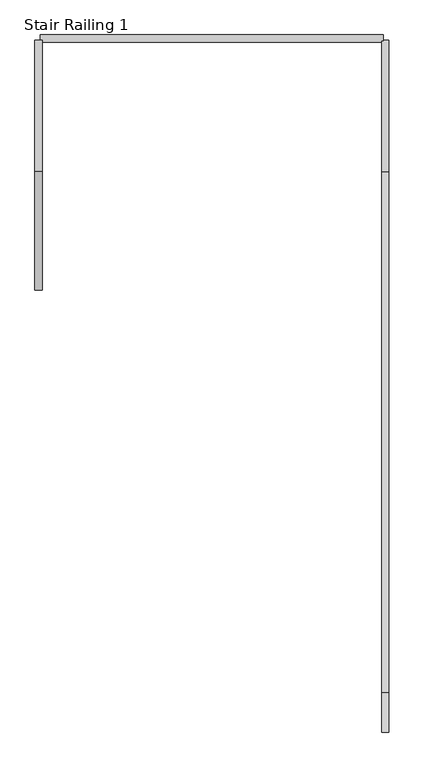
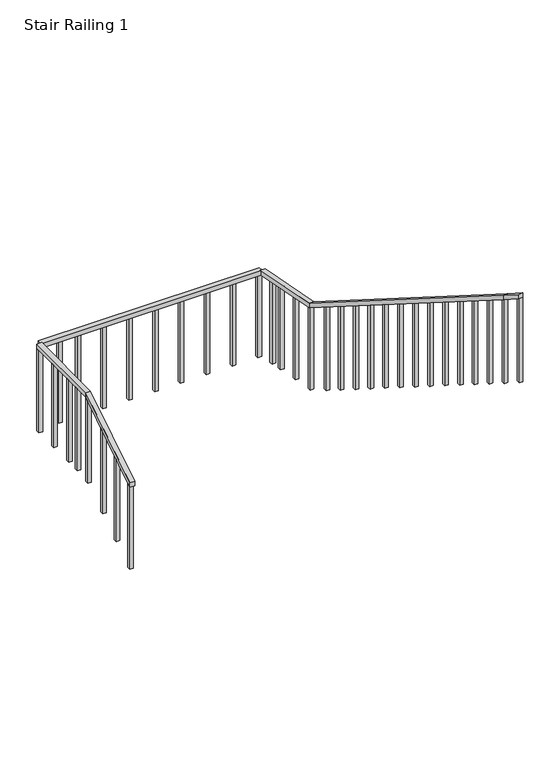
"""IFC4 building model written with IfcOpenShell, lengths in millimetres: railing geometry, Stair Railing 1."""

from ifc_helpers import new_model, si_unit, frame, origin, place, context, project, spatial, polyline, outline, extrude, source, transform, mapped, element, save


def stair_railing_1_f4059a6a(model_context):
    return source(origin(), model_context, "Body", "SweptSolid", [
        extrude(outline(polyline([(55823.086508, 1696.4526316), (55823.086508, 1645.6526316), (54998.086508, 1116.2631579), (54998.086508, 1167.0631579), (55823.086508, 1696.4526316)])), frame((-6353.0838845, 0.0, 0.0), z_axis=(1.0, 0.0, 0.0), x_axis=(0.0, 1.0, 0.0)), (0.0, 0.0, 1.0), 50.8),
        extrude(outline(polyline([(55036.186508, 1140.7113263), (55036.186508, 176.4631579), (54998.086508, 176.4631579), (54998.086508, 1116.2631579), (55036.186508, 1140.7113263)])), frame((-6353.0838845, 0.0, 0.0), z_axis=(1.0, 0.0, 0.0), x_axis=(0.0, 1.0, 0.0)), (0.0, 0.0, 1.0), 38.1),
        extrude(outline(polyline([(55289.936508, 1303.5386947), (55289.936508, 339.2905263), (55251.836508, 339.2905263), (55251.836508, 1279.0905263), (55289.936508, 1303.5386947)])), frame((-6353.0838845, 0.0, 0.0), z_axis=(1.0, 0.0, 0.0), x_axis=(0.0, 1.0, 0.0)), (0.0, 0.0, 1.0), 38.1),
        extrude(outline(polyline([(55543.686508, 1466.3660632), (55543.686508, 502.1178947), (55505.586508, 502.1178947), (55505.586508, 1441.9178947), (55543.686508, 1466.3660632)])), frame((-6353.0838845, 0.0, 0.0), z_axis=(1.0, 0.0, 0.0), x_axis=(0.0, 1.0, 0.0)), (0.0, 0.0, 1.0), 38.1),
        extrude(outline(polyline([(55823.086508, 1645.6526316), (55823.086508, 681.4044632), (55784.986508, 681.4044632), (55784.986508, 1621.2044632), (55823.086508, 1645.6526316)])), frame((-6353.0838845, 0.0, 0.0), z_axis=(1.0, 0.0, 0.0), x_axis=(0.0, 1.0, 0.0)), (0.0, 0.0, 1.0), 38.1),
        extrude(outline(polyline([(-6353.0838845, 56737.486508), (-6302.2838845, 56737.486508), (-6302.2838845, 55823.086508), (-6353.0838845, 55823.086508), (-6353.0838845, 56737.486508)])), frame((0.0, 0.0, 1645.6526316), z_axis=(0.0, 0.0, 1.0), x_axis=(1.0, 0.0, 0.0)), (0.0, 0.0, 1.0), 50.8),
        extrude(outline(polyline([(-6314.9838845, 55981.836508), (-6353.0838845, 55981.836508), (-6353.0838845, 56019.936508), (-6314.9838845, 56019.936508), (-6314.9838845, 55981.836508)])), frame((0.0, 0.0, 705.8526316), z_axis=(0.0, 0.0, 1.0), x_axis=(1.0, 0.0, 0.0)), (0.0, 0.0, 1.0), 939.8),
        extrude(outline(polyline([(-6314.9838845, 56140.586508), (-6353.0838845, 56140.586508), (-6353.0838845, 56178.686508), (-6314.9838845, 56178.686508), (-6314.9838845, 56140.586508)])), frame((0.0, 0.0, 705.8526316), z_axis=(0.0, 0.0, 1.0), x_axis=(1.0, 0.0, 0.0)), (0.0, 0.0, 1.0), 939.8),
        extrude(outline(polyline([(-6314.9838845, 56419.986508), (-6353.0838845, 56419.986508), (-6353.0838845, 56458.086508), (-6314.9838845, 56458.086508), (-6314.9838845, 56419.986508)])), frame((0.0, 0.0, 705.8526316), z_axis=(0.0, 0.0, 1.0), x_axis=(1.0, 0.0, 0.0)), (0.0, 0.0, 1.0), 939.8),
        extrude(outline(polyline([(-6314.9838845, 56699.386508), (-6353.0838845, 56699.386508), (-6353.0838845, 56737.486508), (-6314.9838845, 56737.486508), (-6314.9838845, 56699.386508)])), frame((0.0, 0.0, 705.8526316), z_axis=(0.0, 0.0, 1.0), x_axis=(1.0, 0.0, 0.0)), (0.0, 0.0, 1.0), 939.8),
        extrude(outline(polyline([(-3925.3747339, 56775.586508), (-3925.3747339, 56724.786508), (-6314.9838845, 56724.786508), (-6314.9838845, 56775.586508), (-3925.3747339, 56775.586508)])), frame((0.0, 0.0, 1645.6526316), z_axis=(0.0, 0.0, 1.0), x_axis=(1.0, 0.0, 0.0)), (0.0, 0.0, 1.0), 50.8),
        extrude(outline(polyline([(-6117.1293092, 56737.486508), (-6117.1293092, 56775.586508), (-6079.0293092, 56775.586508), (-6079.0293092, 56737.486508), (-6117.1293092, 56737.486508)])), frame((0.0, 0.0, 705.8526316), z_axis=(0.0, 0.0, 1.0), x_axis=(1.0, 0.0, 0.0)), (0.0, 0.0, 1.0), 939.8),
        extrude(outline(polyline([(-5919.2747339, 56737.486508), (-5919.2747339, 56775.586508), (-5881.1747339, 56775.586508), (-5881.1747339, 56737.486508), (-5919.2747339, 56737.486508)])), frame((0.0, 0.0, 705.8526316), z_axis=(0.0, 0.0, 1.0), x_axis=(1.0, 0.0, 0.0)), (0.0, 0.0, 1.0), 939.8),
        extrude(outline(polyline([(-5639.8747339, 56737.486508), (-5639.8747339, 56775.586508), (-5601.7747339, 56775.586508), (-5601.7747339, 56737.486508), (-5639.8747339, 56737.486508)])), frame((0.0, 0.0, 705.8526316), z_axis=(0.0, 0.0, 1.0), x_axis=(1.0, 0.0, 0.0)), (0.0, 0.0, 1.0), 939.8),
        extrude(outline(polyline([(-5360.4747339, 56737.486508), (-5360.4747339, 56775.586508), (-5322.3747339, 56775.586508), (-5322.3747339, 56737.486508), (-5360.4747339, 56737.486508)])), frame((0.0, 0.0, 705.8526316), z_axis=(0.0, 0.0, 1.0), x_axis=(1.0, 0.0, 0.0)), (0.0, 0.0, 1.0), 939.8),
        extrude(outline(polyline([(-5081.0747339, 56737.486508), (-5081.0747339, 56775.586508), (-5042.9747339, 56775.586508), (-5042.9747339, 56737.486508), (-5081.0747339, 56737.486508)])), frame((0.0, 0.0, 705.8526316), z_axis=(0.0, 0.0, 1.0), x_axis=(1.0, 0.0, 0.0)), (0.0, 0.0, 1.0), 939.8),
        extrude(outline(polyline([(-4801.6747339, 56737.486508), (-4801.6747339, 56775.586508), (-4763.5747339, 56775.586508), (-4763.5747339, 56737.486508), (-4801.6747339, 56737.486508)])), frame((0.0, 0.0, 705.8526316), z_axis=(0.0, 0.0, 1.0), x_axis=(1.0, 0.0, 0.0)), (0.0, 0.0, 1.0), 939.8),
        extrude(outline(polyline([(-4522.2747339, 56737.486508), (-4522.2747339, 56775.586508), (-4484.1747339, 56775.586508), (-4484.1747339, 56737.486508), (-4522.2747339, 56737.486508)])), frame((0.0, 0.0, 705.8526316), z_axis=(0.0, 0.0, 1.0), x_axis=(1.0, 0.0, 0.0)), (0.0, 0.0, 1.0), 939.8),
        extrude(outline(polyline([(-4242.8747339, 56737.486508), (-4242.8747339, 56775.586508), (-4204.7747339, 56775.586508), (-4204.7747339, 56737.486508), (-4242.8747339, 56737.486508)])), frame((0.0, 0.0, 705.8526316), z_axis=(0.0, 0.0, 1.0), x_axis=(1.0, 0.0, 0.0)), (0.0, 0.0, 1.0), 939.8),
        extrude(outline(polyline([(-3963.4747339, 56737.486508), (-3963.4747339, 56775.586508), (-3925.3747339, 56775.586508), (-3925.3747339, 56737.486508), (-3963.4747339, 56737.486508)])), frame((0.0, 0.0, 705.8526316), z_axis=(0.0, 0.0, 1.0), x_axis=(1.0, 0.0, 0.0)), (0.0, 0.0, 1.0), 939.8),
        extrude(outline(polyline([(55823.086508, 1822.1157895), (55823.086508, 1872.9157895), (56737.486508, 1696.4526316), (56737.486508, 1645.6526316), (55823.086508, 1822.1157895)])), frame((-3938.0747339, 0.0, 0.0), z_axis=(1.0, 0.0, 0.0), x_axis=(0.0, 1.0, 0.0)), (0.0, 0.0, 1.0), 50.8),
        extrude(outline(polyline([(56578.736508, 1676.2885965), (56578.736508, 736.4885965), (56540.636508, 736.4885965), (56540.636508, 1683.6412281), (56578.736508, 1676.2885965)])), frame((-3925.3747339, 0.0, 0.0), z_axis=(1.0, 0.0, 0.0), x_axis=(0.0, 1.0, 0.0)), (0.0, 0.0, 1.0), 38.1),
        extrude(outline(polyline([(56419.986508, 1706.9245614), (56419.986508, 767.1245614), (56381.886508, 767.1245614), (56381.886508, 1714.277193), (56419.986508, 1706.9245614)])), frame((-3925.3747339, 0.0, 0.0), z_axis=(1.0, 0.0, 0.0), x_axis=(0.0, 1.0, 0.0)), (0.0, 0.0, 1.0), 38.1),
        extrude(outline(polyline([(56140.586508, 1760.8438596), (56140.586508, 821.0438596), (56102.486508, 821.0438596), (56102.486508, 1768.1964912), (56140.586508, 1760.8438596)])), frame((-3925.3747339, 0.0, 0.0), z_axis=(1.0, 0.0, 0.0), x_axis=(0.0, 1.0, 0.0)), (0.0, 0.0, 1.0), 38.1),
        extrude(outline(polyline([(55861.186508, 1814.7631579), (55861.186508, 874.9631579), (55823.086508, 874.9631579), (55823.086508, 1822.1157895), (55861.186508, 1814.7631579)])), frame((-3925.3747339, 0.0, 0.0), z_axis=(1.0, 0.0, 0.0), x_axis=(0.0, 1.0, 0.0)), (0.0, 0.0, 1.0), 38.1),
        extrude(outline(polyline([(52190.886508, 4116.1368421), (52190.886508, 4166.9368421), (55823.086508, 1872.9157895), (55823.086508, 1822.1157895), (52190.886508, 4116.1368421)])), frame((-3938.0747339, 0.0, 0.0), z_axis=(1.0, 0.0, 0.0), x_axis=(0.0, 1.0, 0.0)), (0.0, 0.0, 1.0), 50.8),
        extrude(outline(polyline([(55562.736508, 1986.5473684), (55562.736508, 1046.7473684), (55524.636508, 1046.7473684), (55524.636508, 2010.6105263), (55562.736508, 1986.5473684)])), frame((-3925.3747339, 0.0, 0.0), z_axis=(1.0, 0.0, 0.0), x_axis=(0.0, 1.0, 0.0)), (0.0, 0.0, 1.0), 38.1),
        extrude(outline(polyline([(55302.386508, 2150.9789474), (55302.386508, 1211.1789474), (55264.286508, 1211.1789474), (55264.286508, 2175.0421053), (55302.386508, 2150.9789474)])), frame((-3925.3747339, 0.0, 0.0), z_axis=(1.0, 0.0, 0.0), x_axis=(0.0, 1.0, 0.0)), (0.0, 0.0, 1.0), 38.1),
        extrude(outline(polyline([(55022.986508, 2327.4421053), (55022.986508, 1387.6421053), (54984.886508, 1387.6421053), (54984.886508, 2351.5052632), (55022.986508, 2327.4421053)])), frame((-3925.3747339, 0.0, 0.0), z_axis=(1.0, 0.0, 0.0), x_axis=(0.0, 1.0, 0.0)), (0.0, 0.0, 1.0), 38.1),
        extrude(outline(polyline([(54743.586508, 2503.9052632), (54743.586508, 1564.1052632), (54705.486508, 1564.1052632), (54705.486508, 2527.9684211), (54743.586508, 2503.9052632)])), frame((-3925.3747339, 0.0, 0.0), z_axis=(1.0, 0.0, 0.0), x_axis=(0.0, 1.0, 0.0)), (0.0, 0.0, 1.0), 38.1),
        extrude(outline(polyline([(54464.186508, 2680.3684211), (54464.186508, 1740.5684211), (54426.086508, 1740.5684211), (54426.086508, 2704.4315789), (54464.186508, 2680.3684211)])), frame((-3925.3747339, 0.0, 0.0), z_axis=(1.0, 0.0, 0.0), x_axis=(0.0, 1.0, 0.0)), (0.0, 0.0, 1.0), 38.1),
        extrude(outline(polyline([(54184.786508, 2856.8315789), (54184.786508, 1917.0315789), (54146.686508, 1917.0315789), (54146.686508, 2880.8947368), (54184.786508, 2856.8315789)])), frame((-3925.3747339, 0.0, 0.0), z_axis=(1.0, 0.0, 0.0), x_axis=(0.0, 1.0, 0.0)), (0.0, 0.0, 1.0), 38.1),
        extrude(outline(polyline([(53905.386508, 3033.2947368), (53905.386508, 2093.4947368), (53867.286508, 2093.4947368), (53867.286508, 3057.3578947), (53905.386508, 3033.2947368)])), frame((-3925.3747339, 0.0, 0.0), z_axis=(1.0, 0.0, 0.0), x_axis=(0.0, 1.0, 0.0)), (0.0, 0.0, 1.0), 38.1),
        extrude(outline(polyline([(53625.986508, 3209.7578947), (53625.986508, 2269.9578947), (53587.886508, 2269.9578947), (53587.886508, 3233.8210526), (53625.986508, 3209.7578947)])), frame((-3925.3747339, 0.0, 0.0), z_axis=(1.0, 0.0, 0.0), x_axis=(0.0, 1.0, 0.0)), (0.0, 0.0, 1.0), 38.1),
        extrude(outline(polyline([(53346.586508, 3386.2210526), (53346.586508, 2446.4210526), (53308.486508, 2446.4210526), (53308.486508, 3410.2842105), (53346.586508, 3386.2210526)])), frame((-3925.3747339, 0.0, 0.0), z_axis=(1.0, 0.0, 0.0), x_axis=(0.0, 1.0, 0.0)), (0.0, 0.0, 1.0), 38.1),
        extrude(outline(polyline([(53067.186508, 3562.6842105), (53067.186508, 2622.8842105), (53029.086508, 2622.8842105), (53029.086508, 3586.7473684), (53067.186508, 3562.6842105)])), frame((-3925.3747339, 0.0, 0.0), z_axis=(1.0, 0.0, 0.0), x_axis=(0.0, 1.0, 0.0)), (0.0, 0.0, 1.0), 38.1),
        extrude(outline(polyline([(52787.786508, 3739.1473684), (52787.786508, 2799.3473684), (52749.686508, 2799.3473684), (52749.686508, 3763.2105263), (52787.786508, 3739.1473684)])), frame((-3925.3747339, 0.0, 0.0), z_axis=(1.0, 0.0, 0.0), x_axis=(0.0, 1.0, 0.0)), (0.0, 0.0, 1.0), 38.1),
        extrude(outline(polyline([(52508.386508, 3915.6105263), (52508.386508, 2975.8105263), (52470.286508, 2975.8105263), (52470.286508, 3939.6736842), (52508.386508, 3915.6105263)])), frame((-3925.3747339, 0.0, 0.0), z_axis=(1.0, 0.0, 0.0), x_axis=(0.0, 1.0, 0.0)), (0.0, 0.0, 1.0), 38.1),
        extrude(outline(polyline([(52228.986508, 4092.0736842), (52228.986508, 3152.2736842), (52190.886508, 3152.2736842), (52190.886508, 4116.1368421), (52228.986508, 4092.0736842)])), frame((-3925.3747339, 0.0, 0.0), z_axis=(1.0, 0.0, 0.0), x_axis=(0.0, 1.0, 0.0)), (0.0, 0.0, 1.0), 38.1),
        extrude(outline(polyline([(51911.486508, 4292.6), (51911.486508, 4343.4), (52190.886508, 4166.9368421), (52190.886508, 4116.1368421), (51911.486508, 4292.6)])), frame((-3938.0747339, 0.0, 0.0), z_axis=(1.0, 0.0, 0.0), x_axis=(0.0, 1.0, 0.0)), (0.0, 0.0, 1.0), 50.8),
        extrude(outline(polyline([(51949.586508, 4268.5368421), (51949.586508, 3328.7368421), (51911.486508, 3328.7368421), (51911.486508, 4292.6), (51949.586508, 4268.5368421)])), frame((-3925.3747339, 0.0, 0.0), z_axis=(1.0, 0.0, 0.0), x_axis=(0.0, 1.0, 0.0)), (0.0, 0.0, 1.0), 38.1),
    ])


if __name__ == "__main__":
    model = new_model("IFC4")
    model_context = context("Model", 3, world=origin())
    ifc_project = project(units=[si_unit("LENGTHUNIT", "METRE", prefix="MILLI")], contexts=[model_context])
    site = spatial("IfcSite", under=ifc_project)
    building = spatial("IfcBuilding", under=site)
    placement = place(None, origin())
    stair_railing_1_shape = stair_railing_1_f4059a6a(model_context)
    element("IfcRailing", 1, ObjectType="Stair Railing 1", at=placement, inside=building, context=model_context, shape_type="MappedRepresentation", body=[
        mapped(stair_railing_1_shape, transform((0.0, 0.0, 0.0), x_axis=(1.0, 0.0, 0.0), y_axis=(0.0, 1.0, 0.0), z_axis=(0.0, 0.0, 1.0))),
    ])
    save(model, "model.ifc")
